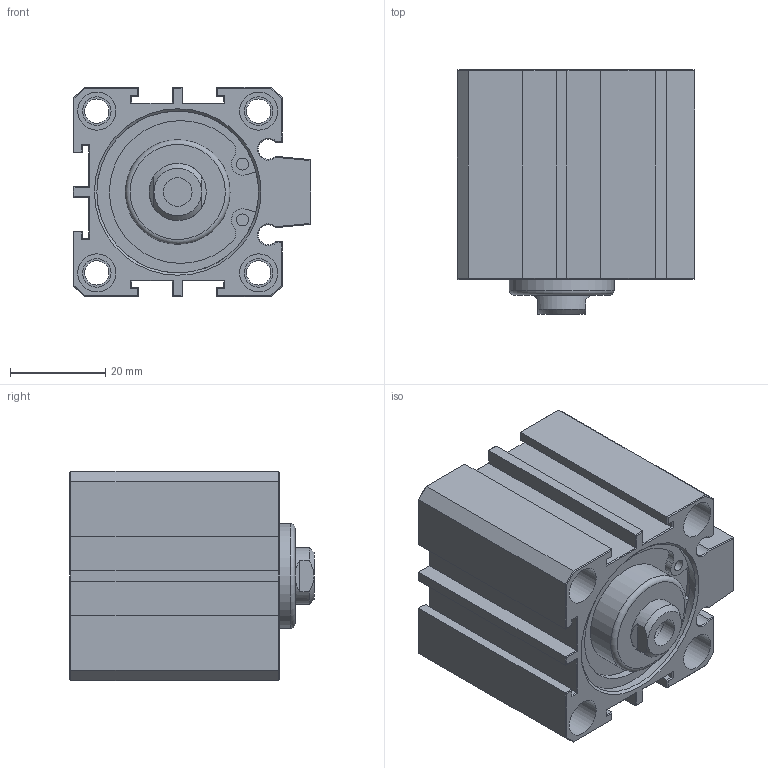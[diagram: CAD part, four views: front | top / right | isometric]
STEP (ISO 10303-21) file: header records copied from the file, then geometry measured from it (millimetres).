
FILE_DESCRIPTION(/* description */ (''),/* implementation_level */ '2;1');
FILE_NAME(/* name */ 'AJC-SDM32X10N',/* time_stamp */ '2019-06-19T16:12:31+08:00',/* author */ ('JEFF HUANG'),/* organization */ ('TAIWAN AMAC CLAMP INDUSTRIAL CO., LTD.'),/* preprocessor_version */ 'ST-DEVELOPER v16.7',/* originating_system */ 'DEX',/* authorisation */ $);
FILE_SCHEMA (('AUTOMOTIVE_DESIGN {1 0 10303 214 3 1 1}'));
Length unit declared in the file: millimetre
Products named in the file (1): AJC-SDM32X10N
Bounding box: 50 x 51.3 x 44 mm (x, y, z)
Volume: 71386.7 mm3; surface area: 20546.8 mm2
Topology: 1 solids, 1 shells, 254 faces, 553 edges, 329 vertices
Faces by surface type: plane 192, cylinder 48, cone 10, sphere 2, torus 2
Full cylindrical faces by diameter (mm): 2.5 x4, 5.1 x4, 6 x10, 8 x8, 9.147 x2, 22 x1, 23 x1, 34 x2
Entity records: 8334 total; most frequent: CARTESIAN_POINT 1125, DIRECTION 1122, ORIENTED_EDGE 1018, EDGE_CURVE 509, LINE 382, VECTOR 382, AXIS2_PLACEMENT_3D 370, EDGE_LOOP 330
